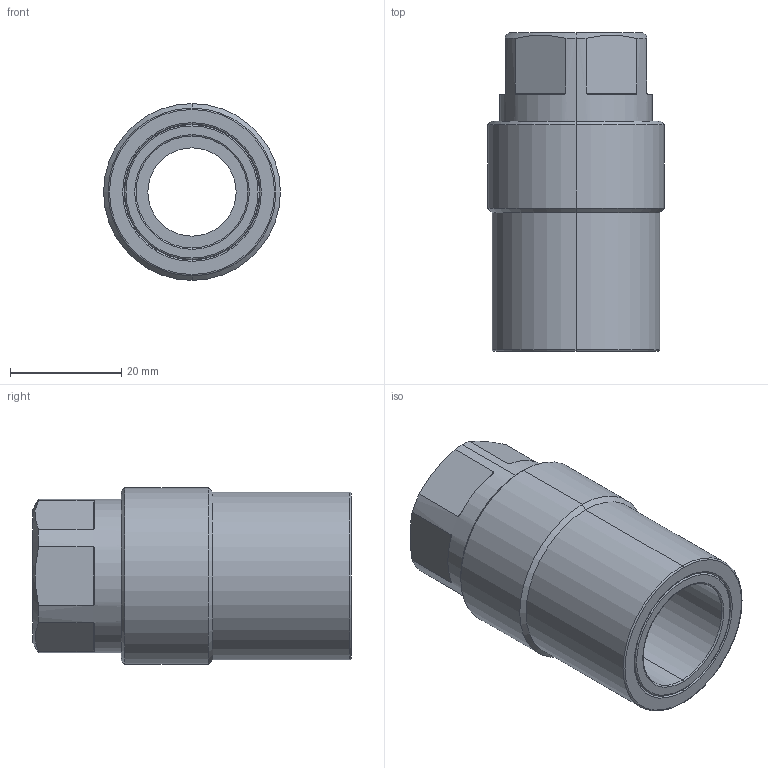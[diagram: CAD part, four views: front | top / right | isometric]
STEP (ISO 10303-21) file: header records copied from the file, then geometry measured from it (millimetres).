
FILE_DESCRIPTION (( 'STEP AP203' ), '1' );
FILE_NAME ('SC500B-L.step', '2022-02-03T06:52:14', ( 'Microsoft Corporation' ), ( 'MS' ), 'SwSTEP 2.0', 'SolidWorks 2019', '' );
FILE_SCHEMA (( 'CONFIG_CONTROL_DESIGN' ));
Length unit declared in the file: inch
Products named in the file (1): SC500B-L
Bounding box: 31.72 x 57.15 x 31.72 mm (x, y, z)
Volume: 23487.1 mm3; surface area: 17813 mm2
Topology: 3 solids, 3 shells, 88 faces, 200 edges, 122 vertices
Faces by surface type: cylinder 38, plane 22, torus 16, cone 12
Entity records: 2727 total; most frequent: CARTESIAN_POINT 643, DIRECTION 450, ORIENTED_EDGE 400, EDGE_CURVE 200, AXIS2_PLACEMENT_3D 191, VERTEX_POINT 122, CIRCLE 102, EDGE_LOOP 98
